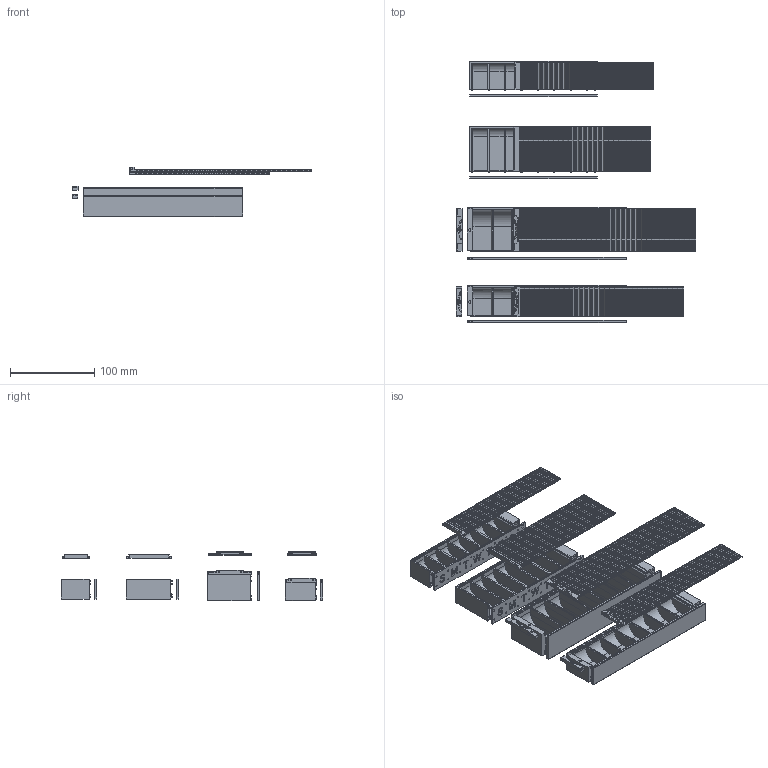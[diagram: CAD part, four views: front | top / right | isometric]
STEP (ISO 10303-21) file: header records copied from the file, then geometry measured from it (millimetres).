
FILE_DESCRIPTION(/* description */ (''),/* implementation_level */ '2;1');
FILE_NAME(/* name */ 'Pillbox ALL 4.step',/* time_stamp */ '2024-02-05T08:54:25-07:00',/* author */ (''),/* organization */ (''),/* preprocessor_version */ 'ST-DEVELOPER v20',/* originating_system */ 'Autodesk Translation Framework v12.20.1.177',/* authorisation */ '');
FILE_SCHEMA (('AUTOMOTIVE_DESIGN { 1 0 10303 214 3 1 1 }'));
Products named in the file (16): PillboxMAX; PillboxMAX Main Body; PillboxMAX Side Plate; PillboxMAX MagBlock; PillboxMAX Roll Top; PillboxV3 v41; WidePillboxBody (1); WideRolltop; Pillbox Side; Smallrolltop v4; SmallPillboxBody; Pillbox Medium; Main Body (1); Side Plate (1); MagBlock (1); Roll Top (1)
Assembly tree (15 placements, depth 3):
  PillboxMAX
    PillboxMAX Main Body
    PillboxMAX Side Plate
    PillboxMAX MagBlock
    PillboxMAX Roll Top
    PillboxV3 v41
      WidePillboxBody (1)
      WideRolltop
      Pillbox Side
      Smallrolltop v4
      SmallPillboxBody
    Pillbox Medium
      Main Body (1)
      Side Plate (1)
      MagBlock (1)
      Roll Top (1)
Bounding box: 284.71 x 310.43 x 59.25 mm (x, y, z)
Volume: 347961.2 mm3; surface area: 348327.5 mm2
Topology: 14 solids, 14 shells, 2660 faces, 7338 edges, 4844 vertices
Faces by surface type: plane 1624, cylinder 788, bspline 190, cone 36, sphere 20, torus 2
Full cylindrical faces by diameter (mm): 1.5 x30, 1.727 x36, 1.85 x22, 1.927 x36, 2 x2, 3 x2, 3.2 x8, 4 x2
Entity records: 96057 total; most frequent: CARTESIAN_POINT 27285, ORIENTED_EDGE 14672, DIRECTION 13724, EDGE_CURVE 7336, LINE 5278, VECTOR 5278, VERTEX_POINT 4844, AXIS2_PLACEMENT_3D 4223
